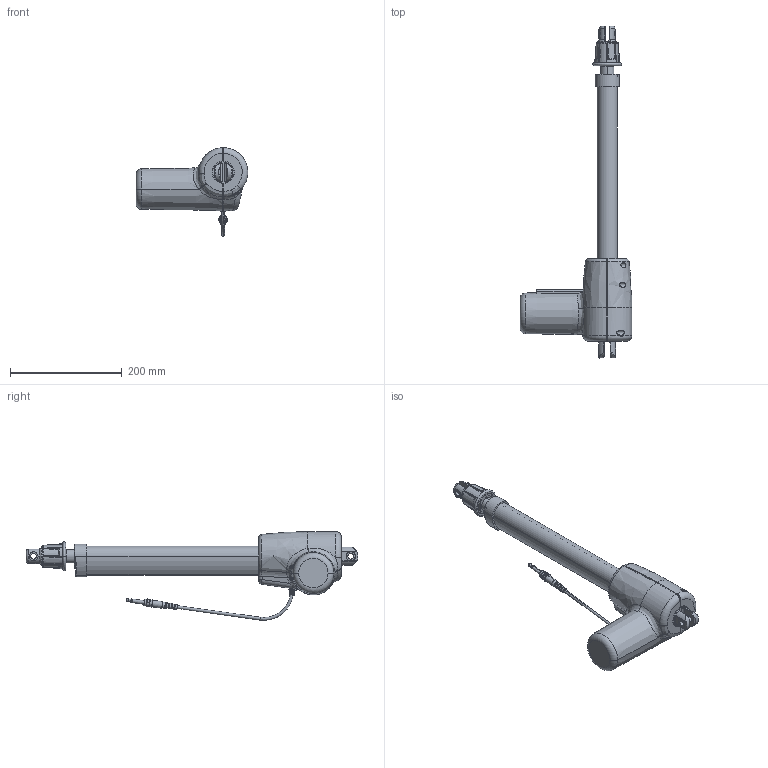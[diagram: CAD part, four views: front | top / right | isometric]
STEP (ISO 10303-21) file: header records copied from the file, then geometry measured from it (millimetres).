
FILE_DESCRIPTION((''),'2;1');
FILE_NAME('MD80MR1_ASM','2016-08-02T',('user'),(''),'PRO/ENGINEER BY PARAMETRIC TECHNOLOGY CORPORATION, 2008090','PRO/ENGINEER BY PARAMETRIC TECHNOLOGY CORPORATION, 2008090','');
FILE_SCHEMA(('CONFIG_CONTROL_DESIGN'));
Length unit declared in the file: millimetre
Products named in the file (3): 2_ASM; 1_ASM; MD80MR1_ASM
Assembly tree (2 placements, depth 2):
  MD80MR1_ASM
    2_ASM
    1_ASM
Bounding box: 200 x 594.7 x 158.69 mm (x, y, z)
Volume: 637978.3 mm3; surface area: 452763.4 mm2
Topology: 2 solids, 36 shells, 2150 faces, 5884 edges, 3807 vertices
Faces by surface type: plane 880, cylinder 705, bspline 280, torus 171, cone 80, sphere 34
Entity records: 92676 total; most frequent: CARTESIAN_POINT 40285, ORIENTED_EDGE 11752, DIRECTION 10041, EDGE_CURVE 5876, AXIS2_PLACEMENT_3D 3859, VERTEX_POINT 3807, VECTOR 2323, LINE 2323
